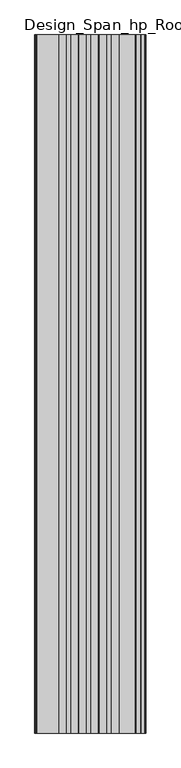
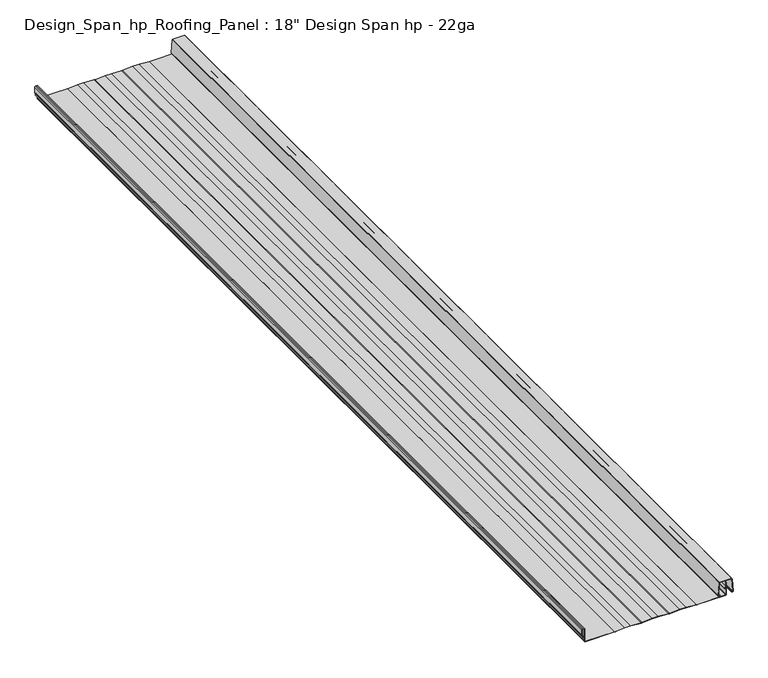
"""IFC4 building model written with IfcOpenShell, lengths in millimetres: proxy geometry."""

from ifc_helpers import new_model, si_unit, point, frame, frame_2d, origin, place, context, project, spatial, polyline, circle_curve, trimmed, segment, composite_curve, outline, extrude, faceted_brep, source, transform, mapped, element, save


def proxy_86f8ee29(model_context):
    return source(origin(), model_context, "Body", "SolidModel", [
        extrude(outline(composite_curve([segment(polyline([(4.4419256, 246.8395257), (6.437251, 244.307061), (5.7905442, 243.854232), (3.9442331, 246.4910376)]), True, "CONTINUOUS"), segment(trimmed(circle_curve(frame_2d((5.6861569, 247.7107458)), 2.1264964), [point((3.9442331, 246.4910376))], [point((5.8529999, 249.8306869))], False, "CARTESIAN"), True, "CONTINUOUS"), segment(polyline([(5.8529999, 249.8306869), (48.7328659, 246.4559683)]), True, "CONTINUOUS"), segment(trimmed(circle_curve(frame_2d((48.5958163, 244.7145881)), 1.7467649), [point((48.7328659, 246.4559683))], [point((50.3425812, 244.7145881))], False, "CARTESIAN"), True, "CONTINUOUS"), segment(polyline([(50.3425812, 244.7145881), (50.3425812, 207.3286333)]), True, "CONTINUOUS"), segment(trimmed(circle_curve(frame_2d((48.5958163, 207.3286333)), 1.7467649), [point((50.3425812, 207.3286333))], [point((48.7736135, 205.5909406))], False, "CARTESIAN"), True, "CONTINUOUS"), segment(polyline([(48.7736135, 205.5909406), (5.8530235, 202.2125361)]), True, "CONTINUOUS"), segment(trimmed(circle_curve(frame_2d((5.6861569, 204.3324754)), 2.1264964), [point((5.8530235, 202.2125361))], [point((3.944233, 205.5521835))], False, "CARTESIAN"), True, "CONTINUOUS"), segment(polyline([(3.944233, 205.5521835), (5.7905442, 208.1889894), (6.4461875, 207.729903), (4.4419256, 205.1990132)]), True, "CONTINUOUS"), segment(trimmed(circle_curve(frame_2d((5.6861569, 204.327793)), 1.518926), [point((4.4419256, 205.1990132))], [point((5.805417, 202.8135562))], True, "CARTESIAN"), True, "CONTINUOUS"), segment(polyline([(5.805417, 202.8135562), (48.6981036, 206.1917491)]), True, "CONTINUOUS"), segment(trimmed(circle_curve(frame_2d((48.5948409, 207.3286333)), 1.1415643), [point((48.6981036, 206.1917491))], [point((49.7364052, 207.3286333))], True, "CARTESIAN"), True, "CONTINUOUS"), segment(polyline([(49.7364052, 207.3286333), (49.7364052, 244.7143592)]), True, "CONTINUOUS"), segment(trimmed(circle_curve(frame_2d((48.5965516, 244.7143592)), 1.1398536), [point((49.7364052, 244.7143592))], [point((48.6859705, 245.8507001))], True, "CARTESIAN"), True, "CONTINUOUS"), segment(polyline([(48.6859705, 245.8507001), (5.8053133, 249.2249908)]), True, "CONTINUOUS"), segment(trimmed(circle_curve(frame_2d((5.6861569, 247.7107458)), 1.518926), [point((5.8053133, 249.2249908))], [point((4.4419256, 246.8395257))], True, "CARTESIAN"), True, "CONTINUOUS")], self_intersect=False)), frame((0.0, -3048.0, 0.0), z_axis=(0.0, 1.0, 0.0), x_axis=(0.0, 0.0, 1.0)), (0.0, 0.0, 1.0), 3048.0),
        faceted_brep([(98.3896485, -3048.0, 2.1886753), (130.9591887, -3048.0, 0.0), (130.959119, -3048.0, 0.7815562), (98.3896485, -3048.0, 2.9702315), (78.8507431, -3048.0, 2.9702315), (46.2812018, -3048.0, 0.7815562), (42.3390647, -3048.0, 0.7815562), (9.7695234, -3048.0, 2.9702315), (-9.769382, -3048.0, 2.9702315), (-42.3389232, -3048.0, 0.7815562), (-46.2810604, -3048.0, 0.7815562), (-78.8506017, -3048.0, 2.9702315), (-98.3895071, -3048.0, 2.9702315), (-130.9590483, -3048.0, 0.7815609), (-130.959119, -3048.0, 0.0), (-98.3895071, -3048.0, 2.1886753), (-78.8506017, -3048.0, 2.1886753), (-46.2810604, -3048.0, 0.0), (-42.3389232, -3048.0, 0.0), (-9.769382, -3048.0, 2.1886753), (9.7695234, -3048.0, 2.1886753), (42.3390647, -3048.0, 0.0), (46.2812018, -3048.0, 0.0), (78.8507431, -3048.0, 2.1886753), (98.3896485, 0.0, 2.1886753), (78.8507431, 0.0, 2.1886753), (46.2812018, 0.0, 0.0), (42.3390647, 0.0, 0.0), (9.7695234, 0.0, 2.1886753), (-9.769382, 0.0, 2.1886753), (-42.3389232, 0.0, 0.0), (-46.2810604, 0.0, 0.0), (-78.8506017, 0.0, 2.1886753), (-98.3895071, 0.0, 2.1886753), (-130.959119, 0.0, 0.0), (-130.959119, 0.0, 0.7815609), (-98.3895071, 0.0, 2.9702315), (-78.8506017, 0.0, 2.9702315), (-46.2810604, 0.0, 0.7815562), (-42.3389232, 0.0, 0.7815562), (-9.769382, 0.0, 2.9702315), (9.7695234, 0.0, 2.9702315), (42.3390647, 0.0, 0.7815562), (46.2812018, 0.0, 0.7815562), (78.8507431, 0.0, 2.9702315), (98.3896485, 0.0, 2.9702315), (130.9591887, 0.0, 0.7815562), (130.959119, 0.0, 0.0)], [[[0, 1, 2, 3, 4, 5, 6, 7, 8, 9, 10, 11, 12, 13, 14, 15, 16, 17, 18, 19, 20, 21, 22, 23]], [[24, 25, 26, 27, 28, 29, 30, 31, 32, 33, 34, 35, 36, 37, 38, 39, 40, 41, 42, 43, 44, 45, 46, 47]], [[2, 1, 47, 46]], [[3, 2, 46, 45]], [[4, 3, 45, 44]], [[5, 4, 44, 43]], [[6, 5, 43, 42]], [[7, 6, 42, 41]], [[8, 7, 41, 40]], [[9, 8, 40, 39]], [[10, 9, 39, 38]], [[11, 10, 38, 37]], [[12, 11, 37, 36]], [[13, 12, 36, 35]], [[14, 13, 35, 34]], [[15, 14, 34, 33]], [[16, 15, 33, 32]], [[17, 16, 32, 31]], [[18, 17, 31, 30]], [[19, 18, 30, 29]], [[20, 19, 29, 28]], [[21, 20, 28, 27]], [[22, 21, 27, 26]], [[23, 22, 26, 25]], [[0, 23, 25, 24]], [[1, 0, 24, 47]]]),
        extrude(outline(composite_curve([segment(polyline([(42.1519319, 226.1511239), (30.9210398, 226.1511239), (23.9968051, 223.1404672)]), True, "CONTINUOUS"), segment(trimmed(circle_curve(frame_2d((23.5085734, 224.2633556)), 1.2244381), [point((23.9968051, 223.1404672))], [point((22.385685, 223.7751238))], False, "CARTESIAN"), True, "CONTINUOUS"), segment(trimmed(circle_curve(frame_2d((23.5085734, 224.2633556)), 1.2244381), [point((22.385685, 223.7751238))], [point((23.0203416, 225.386244))], False, "CARTESIAN"), True, "CONTINUOUS"), segment(polyline([(23.0203416, 225.386244), (26.5323542, 226.9132668), (26.8439915, 226.1965295), (23.3319789, 224.6695067)]), True, "CONTINUOUS"), segment(trimmed(circle_curve(frame_2d((23.5085734, 224.2633556)), 0.4428819), [point((23.3319789, 224.6695067))], [point((23.6851678, 223.8572045))], True, "CARTESIAN"), True, "CONTINUOUS"), segment(polyline([(23.6851678, 223.8572045), (30.3473938, 226.7539398)]), True, "CONTINUOUS"), segment(trimmed(circle_curve(frame_2d((31.2556072, 224.5359077)), 2.3967724), [point((30.3473938, 226.7539398))], [point((31.2556072, 226.9326801))], False, "CARTESIAN"), True, "CONTINUOUS"), segment(polyline([(31.2556072, 226.9326801), (42.1519319, 226.9326801)]), True, "CONTINUOUS"), segment(trimmed(circle_curve(frame_2d((42.1519319, 227.3755619)), 0.4428819), [point((42.1519319, 226.9326801))], [point((42.1519319, 227.8184438))], True, "CARTESIAN"), True, "CONTINUOUS"), segment(polyline([(42.1519319, 227.8184438), (2.3967724, 227.8184438)]), True, "CONTINUOUS"), segment(trimmed(circle_curve(frame_2d((2.3967724, 226.2032276)), 1.6152162), [point((2.3967724, 227.8184438))], [point((0.7815562, 226.2032276))], True, "CARTESIAN"), True, "CONTINUOUS"), segment(polyline([(0.7815562, 226.2032276), (0.7815562, 130.959119), (0.0, 130.959119), (0.0, 226.2032276)]), True, "CONTINUOUS"), segment(trimmed(circle_curve(frame_2d((2.3967724, 226.2032276)), 2.3967724), [point((0.0, 226.2032276))], [point((2.3967724, 228.6))], False, "CARTESIAN"), True, "CONTINUOUS"), segment(polyline([(2.3967724, 228.6), (42.1519319, 228.6)]), True, "CONTINUOUS"), segment(trimmed(circle_curve(frame_2d((42.1519319, 227.3755619)), 1.2244381), [point((42.1519319, 228.6))], [point((43.37637, 227.3755619))], False, "CARTESIAN"), True, "CONTINUOUS"), segment(trimmed(circle_curve(frame_2d((42.1519319, 227.3755619)), 1.2244381), [point((43.37637, 227.3755619))], [point((42.1519319, 226.1511239))], False, "CARTESIAN"), True, "CONTINUOUS")], self_intersect=False)), frame((0.0, -3048.0, 0.0), z_axis=(0.0, 1.0, 0.0), x_axis=(0.0, 0.0, 1.0)), (0.0, 0.0, 1.0), 3048.0),
        extrude(outline(composite_curve([segment(polyline([(0.0, -226.2032347), (0.0, -130.959119), (0.7815609, -130.959119), (0.7815609, -226.2032217)]), True, "CONTINUOUS"), segment(trimmed(circle_curve(frame_2d((2.39677, -226.2032217)), 1.6152092), [point((0.7815609, -226.2032217))], [point((2.39677, -227.8184309))], True, "CARTESIAN"), True, "CONTINUOUS"), segment(polyline([(2.39677, -227.8184309), (43.1940318, -227.8184309)]), True, "CONTINUOUS"), segment(trimmed(circle_curve(frame_2d((43.1940318, -230.2152285)), 2.3967976), [point((43.1940318, -227.8184309))], [point((45.5908294, -230.2152285))], False, "CARTESIAN"), True, "CONTINUOUS"), segment(polyline([(45.5908294, -230.2152285), (45.5908294, -234.2794084)]), True, "CONTINUOUS"), segment(trimmed(circle_curve(frame_2d((43.193957, -234.2794084)), 2.3968724), [point((45.5908294, -234.2794084))], [point((43.193957, -236.6762808))], False, "CARTESIAN"), True, "CONTINUOUS"), segment(polyline([(43.193957, -236.6762808), (22.4058602, -236.6762808)]), True, "CONTINUOUS"), segment(trimmed(circle_curve(frame_2d((22.4058602, -234.852135)), 1.8241458), [point((22.4058602, -236.6762808))], [point((20.5952813, -234.6300713))], False, "CARTESIAN"), True, "CONTINUOUS"), segment(trimmed(circle_curve(frame_2d((19.5550248, -234.5573483)), 1.0427954), [point((20.5952813, -234.6300713))], [point((19.1140543, -233.6123787))], True, "CARTESIAN"), True, "CONTINUOUS"), segment(polyline([(19.1140543, -233.6123787), (15.2850421, -235.3980955), (14.9547093, -234.6897815), (18.7837558, -232.9040487)]), True, "CONTINUOUS"), segment(trimmed(circle_curve(frame_2d((19.5550248, -234.5573432)), 1.8243461), [point((18.7837558, -232.9040487))], [point((21.3658028, -234.7794277))], False, "CARTESIAN"), True, "CONTINUOUS"), segment(trimmed(circle_curve(frame_2d((22.4058592, -234.8521329)), 1.0425946), [point((21.3658028, -234.7794277))], [point((22.4058592, -235.8947275))], True, "CARTESIAN"), True, "CONTINUOUS"), segment(polyline([(22.4058592, -235.8947275), (43.1939563, -235.8947275)]), True, "CONTINUOUS"), segment(trimmed(circle_curve(frame_2d((43.1939563, -234.2794099)), 1.6153176), [point((43.1939563, -235.8947275))], [point((44.8092739, -234.2794099))], True, "CARTESIAN"), True, "CONTINUOUS"), segment(polyline([(44.8092739, -234.2794099), (44.8092739, -230.2152417)]), True, "CONTINUOUS"), segment(trimmed(circle_curve(frame_2d((43.1940321, -230.2152417)), 1.6152417), [point((44.8092739, -230.2152417))], [point((43.1940321, -228.6))], True, "CARTESIAN"), True, "CONTINUOUS"), segment(polyline([(43.1940321, -228.6), (2.3967653, -228.6)]), True, "CONTINUOUS"), segment(trimmed(circle_curve(frame_2d((2.3967653, -226.2032347)), 2.3967653), [point((2.3967653, -228.6))], [point((0.0, -226.2032347))], False, "CARTESIAN"), True, "CONTINUOUS")], self_intersect=False)), frame((0.0, -3048.0, 0.0), z_axis=(0.0, 1.0, 0.0), x_axis=(0.0, 0.0, 1.0)), (0.0, 0.0, 1.0), 3048.0),
    ])


if __name__ == "__main__":
    model = new_model("IFC4")
    model_context = context("Model", 3, world=origin())
    ifc_project = project(units=[si_unit("LENGTHUNIT", "METRE", prefix="MILLI")], contexts=[model_context])
    site = spatial("IfcSite", under=ifc_project)
    building = spatial("IfcBuilding", under=site)
    placement = place(None, origin())
    proxy_shape = proxy_86f8ee29(model_context)
    element("IfcBuildingElementProxy", 1, Name="Design_Span_hp_Roofing_Panel : 18\" Design Span hp - 22ga", ObjectType="Design_Span_hp_Roofing_Panel : 18\" Design Span hp - 22ga", at=placement, inside=building, context=model_context, shape_type="MappedRepresentation", body=[
        mapped(proxy_shape, transform((0.0, 0.0, 0.0), x_axis=(1.0, 0.0, 0.0), y_axis=(0.0, 1.0, 0.0), z_axis=(0.0, 0.0, 1.0))),
    ])
    save(model, "model.ifc")
